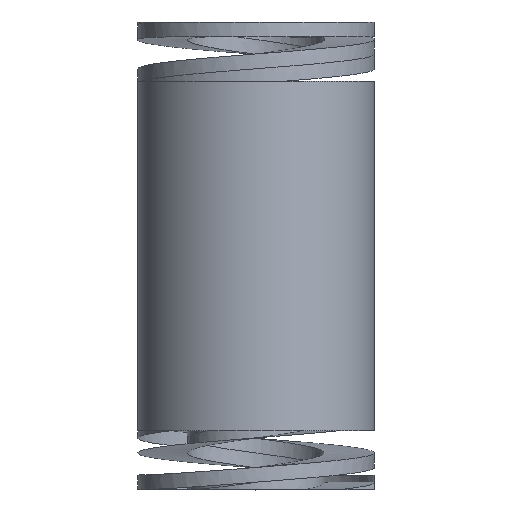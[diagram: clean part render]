
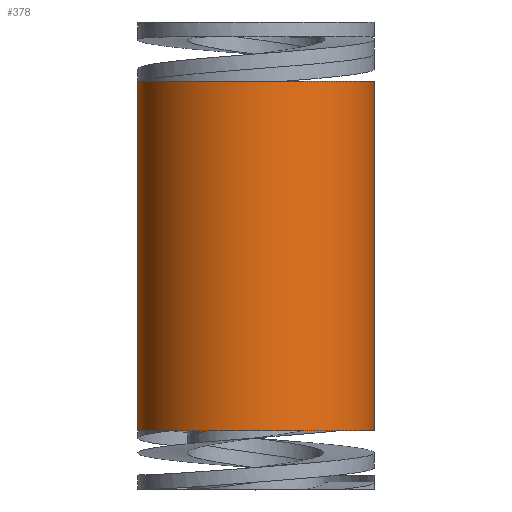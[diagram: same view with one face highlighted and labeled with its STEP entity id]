
A CAD part, top view. The second image highlights one B-rep face of the part: STEP entity #378.
In plain terms, the highlighted cylindrical face has radius 19.25 mm (diameter 38.501 mm), a full revolution.
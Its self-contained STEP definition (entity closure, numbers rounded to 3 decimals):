
#30=LINE('',#1319,#38);
#38=VECTOR('',#451,19.251);
#46=CYLINDRICAL_SURFACE('',#427,19.251);
#102=FACE_OUTER_BOUND('',#128,.T.);
#128=EDGE_LOOP('',(#269,#270,#271,#272));
#147=CIRCLE('',#421,19.251);
#149=CIRCLE('',#424,19.251);
#151=VERTEX_POINT('',#468);
#159=VERTEX_POINT('',#894);
#189=EDGE_CURVE('',#151,#151,#147,.T.);
#197=EDGE_CURVE('',#159,#159,#149,.T.);
#206=EDGE_CURVE('',#151,#159,#30,.T.);
#269=ORIENTED_EDGE('',*,*,#189,.F.);
#270=ORIENTED_EDGE('',*,*,#206,.T.);
#271=ORIENTED_EDGE('',*,*,#197,.T.);
#272=ORIENTED_EDGE('',*,*,#206,.F.);
#378=ADVANCED_FACE('',(#102),#46,.T.);
#421=AXIS2_PLACEMENT_3D('',#469,#436,#437);
#424=AXIS2_PLACEMENT_3D('',#895,#442,#443);
#427=AXIS2_PLACEMENT_3D('',#1318,#449,#450);
#436=DIRECTION('center_axis',(0.,1.,0.));
#437=DIRECTION('ref_axis',(-1.,0.,0.));
#442=DIRECTION('center_axis',(0.,1.,0.));
#443=DIRECTION('ref_axis',(-1.,0.,0.));
#449=DIRECTION('center_axis',(0.,1.,0.));
#450=DIRECTION('ref_axis',(-1.,0.,0.));
#451=DIRECTION('',(0.,-1.,0.));
#468=CARTESIAN_POINT('',(19.251,66.4,0.));
#469=CARTESIAN_POINT('Origin',(0.,66.4,0.));
#894=CARTESIAN_POINT('',(19.251,9.6,0.));
#895=CARTESIAN_POINT('Origin',(0.,9.6,0.));
#1318=CARTESIAN_POINT('Origin',(0.,9.6,0.));
#1319=CARTESIAN_POINT('',(19.251,9.6,0.));
